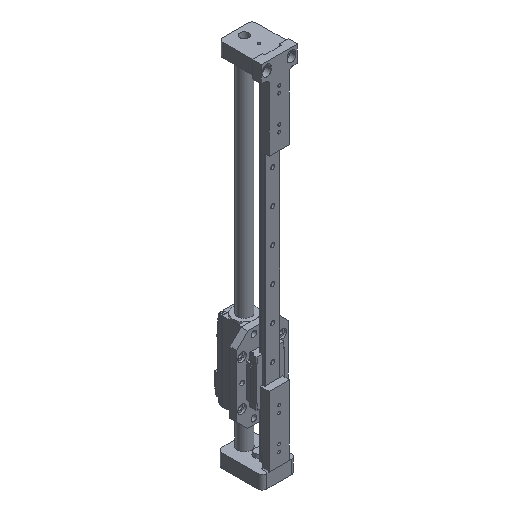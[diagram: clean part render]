
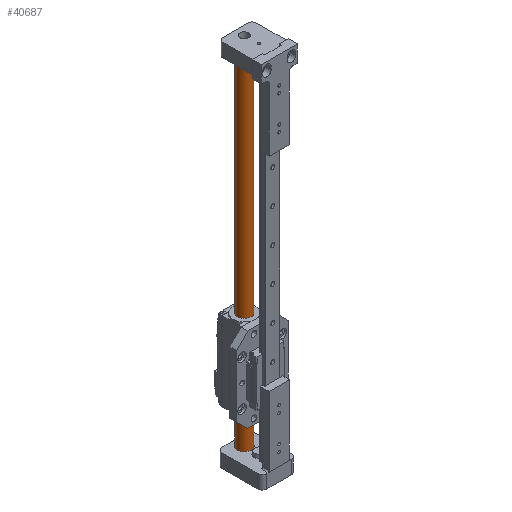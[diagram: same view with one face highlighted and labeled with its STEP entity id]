
A CAD part, isometric view. The second image highlights one B-rep face of the part: STEP entity #40687.
In plain terms, the highlighted cylindrical face has radius 6 mm (diameter 12 mm), a full revolution.
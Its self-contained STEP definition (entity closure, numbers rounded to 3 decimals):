
#40573 = TOROIDAL_SURFACE('',#40574,5.2,0.8);
#40574 = AXIS2_PLACEMENT_3D('',#40575,#40576,#40577);
#40575 = CARTESIAN_POINT('',(0.,0.,313.2));
#40576 = DIRECTION('',(0.,0.,1.));
#40577 = DIRECTION('',(1.,0.,-0.));
#40641 = TOROIDAL_SURFACE('',#40642,5.2,0.8);
#40642 = AXIS2_PLACEMENT_3D('',#40643,#40644,#40645);
#40643 = CARTESIAN_POINT('',(0.,0.,0.8));
#40644 = DIRECTION('',(0.,0.,-1.));
#40645 = DIRECTION('',(-1.,0.,0.));
#40687 = ADVANCED_FACE('',(#40688),#40703,.T.);
#40688 = FACE_BOUND('',#40689,.T.);
#40689 = EDGE_LOOP('',(#40690,#40721,#40743,#40765,#40766));
#40690 = ORIENTED_EDGE('',*,*,#40691,.F.);
#40691 = EDGE_CURVE('',#40692,#40694,#40696,.T.);
#40692 = VERTEX_POINT('',#40693);
#40693 = CARTESIAN_POINT('',(6.,0.,0.8));
#40694 = VERTEX_POINT('',#40695);
#40695 = CARTESIAN_POINT('',(-6.,0.,0.8));
#40696 = SURFACE_CURVE('',#40697,(#40702,#40714),.PCURVE_S1.);
#40697 = CIRCLE('',#40698,6.);
#40698 = AXIS2_PLACEMENT_3D('',#40699,#40700,#40701);
#40699 = CARTESIAN_POINT('',(0.,0.,0.8));
#40700 = DIRECTION('',(0.,0.,-1.));
#40701 = DIRECTION('',(-1.,0.,0.));
#40702 = PCURVE('',#40703,#40708);
#40703 = CYLINDRICAL_SURFACE('',#40704,6.);
#40704 = AXIS2_PLACEMENT_3D('',#40705,#40706,#40707);
#40705 = CARTESIAN_POINT('',(0.,0.,0.));
#40706 = DIRECTION('',(0.,0.,1.));
#40707 = DIRECTION('',(1.,0.,-0.));
#40708 = DEFINITIONAL_REPRESENTATION('',(#40709),#40713);
#40709 = LINE('',#40710,#40711);
#40710 = CARTESIAN_POINT('',(9.425,0.8));
#40711 = VECTOR('',#40712,1.);
#40712 = DIRECTION('',(-1.,0.));
#40713 = ( GEOMETRIC_REPRESENTATION_CONTEXT(2) 
PARAMETRIC_REPRESENTATION_CONTEXT() REPRESENTATION_CONTEXT('2D SPACE',''
  ) );
#40714 = PCURVE('',#40641,#40715);
#40715 = DEFINITIONAL_REPRESENTATION('',(#40716),#40720);
#40716 = LINE('',#40717,#40718);
#40717 = CARTESIAN_POINT('',(0.,6.283));
#40718 = VECTOR('',#40719,1.);
#40719 = DIRECTION('',(1.,0.));
#40720 = ( GEOMETRIC_REPRESENTATION_CONTEXT(2) 
PARAMETRIC_REPRESENTATION_CONTEXT() REPRESENTATION_CONTEXT('2D SPACE',''
  ) );
#40721 = ORIENTED_EDGE('',*,*,#40722,.T.);
#40722 = EDGE_CURVE('',#40692,#40723,#40725,.T.);
#40723 = VERTEX_POINT('',#40724);
#40724 = CARTESIAN_POINT('',(6.,0.,313.2));
#40725 = SEAM_CURVE('',#40726,(#40729,#40736),.PCURVE_S1.);
#40726 = B_SPLINE_CURVE_WITH_KNOTS('',1,(#40727,#40728),.UNSPECIFIED.,
  .F.,.F.,(2,2),(0.8,313.2),.PIECEWISE_BEZIER_KNOTS.);
#40727 = CARTESIAN_POINT('',(6.,0.,0.8));
#40728 = CARTESIAN_POINT('',(6.,0.,313.2));
#40729 = PCURVE('',#40703,#40730);
#40730 = DEFINITIONAL_REPRESENTATION('',(#40731),#40735);
#40731 = LINE('',#40732,#40733);
#40732 = CARTESIAN_POINT('',(6.283,0.));
#40733 = VECTOR('',#40734,1.);
#40734 = DIRECTION('',(0.,1.));
#40735 = ( GEOMETRIC_REPRESENTATION_CONTEXT(2) 
PARAMETRIC_REPRESENTATION_CONTEXT() REPRESENTATION_CONTEXT('2D SPACE',''
  ) );
#40736 = PCURVE('',#40703,#40737);
#40737 = DEFINITIONAL_REPRESENTATION('',(#40738),#40742);
#40738 = LINE('',#40739,#40740);
#40739 = CARTESIAN_POINT('',(0.,0.));
#40740 = VECTOR('',#40741,1.);
#40741 = DIRECTION('',(0.,1.));
#40742 = ( GEOMETRIC_REPRESENTATION_CONTEXT(2) 
PARAMETRIC_REPRESENTATION_CONTEXT() REPRESENTATION_CONTEXT('2D SPACE',''
  ) );
#40743 = ORIENTED_EDGE('',*,*,#40744,.T.);
#40744 = EDGE_CURVE('',#40723,#40723,#40745,.T.);
#40745 = SURFACE_CURVE('',#40746,(#40751,#40758),.PCURVE_S1.);
#40746 = CIRCLE('',#40747,6.);
#40747 = AXIS2_PLACEMENT_3D('',#40748,#40749,#40750);
#40748 = CARTESIAN_POINT('',(0.,0.,313.2));
#40749 = DIRECTION('',(0.,0.,-1.));
#40750 = DIRECTION('',(1.,0.,0.));
#40751 = PCURVE('',#40703,#40752);
#40752 = DEFINITIONAL_REPRESENTATION('',(#40753),#40757);
#40753 = LINE('',#40754,#40755);
#40754 = CARTESIAN_POINT('',(6.283,313.2));
#40755 = VECTOR('',#40756,1.);
#40756 = DIRECTION('',(-1.,0.));
#40757 = ( GEOMETRIC_REPRESENTATION_CONTEXT(2) 
PARAMETRIC_REPRESENTATION_CONTEXT() REPRESENTATION_CONTEXT('2D SPACE',''
  ) );
#40758 = PCURVE('',#40573,#40759);
#40759 = DEFINITIONAL_REPRESENTATION('',(#40760),#40764);
#40760 = LINE('',#40761,#40762);
#40761 = CARTESIAN_POINT('',(6.283,6.283));
#40762 = VECTOR('',#40763,1.);
#40763 = DIRECTION('',(-1.,0.));
#40764 = ( GEOMETRIC_REPRESENTATION_CONTEXT(2) 
PARAMETRIC_REPRESENTATION_CONTEXT() REPRESENTATION_CONTEXT('2D SPACE',''
  ) );
#40765 = ORIENTED_EDGE('',*,*,#40722,.F.);
#40766 = ORIENTED_EDGE('',*,*,#40767,.F.);
#40767 = EDGE_CURVE('',#40694,#40692,#40768,.T.);
#40768 = SURFACE_CURVE('',#40769,(#40774,#40781),.PCURVE_S1.);
#40769 = CIRCLE('',#40770,6.);
#40770 = AXIS2_PLACEMENT_3D('',#40771,#40772,#40773);
#40771 = CARTESIAN_POINT('',(0.,0.,0.8));
#40772 = DIRECTION('',(0.,0.,-1.));
#40773 = DIRECTION('',(-1.,0.,0.));
#40774 = PCURVE('',#40703,#40775);
#40775 = DEFINITIONAL_REPRESENTATION('',(#40776),#40780);
#40776 = LINE('',#40777,#40778);
#40777 = CARTESIAN_POINT('',(3.142,0.8));
#40778 = VECTOR('',#40779,1.);
#40779 = DIRECTION('',(-1.,0.));
#40780 = ( GEOMETRIC_REPRESENTATION_CONTEXT(2) 
PARAMETRIC_REPRESENTATION_CONTEXT() REPRESENTATION_CONTEXT('2D SPACE',''
  ) );
#40781 = PCURVE('',#40641,#40782);
#40782 = DEFINITIONAL_REPRESENTATION('',(#40783),#40787);
#40783 = LINE('',#40784,#40785);
#40784 = CARTESIAN_POINT('',(0.,6.283));
#40785 = VECTOR('',#40786,1.);
#40786 = DIRECTION('',(1.,0.));
#40787 = ( GEOMETRIC_REPRESENTATION_CONTEXT(2) 
PARAMETRIC_REPRESENTATION_CONTEXT() REPRESENTATION_CONTEXT('2D SPACE',''
  ) );
